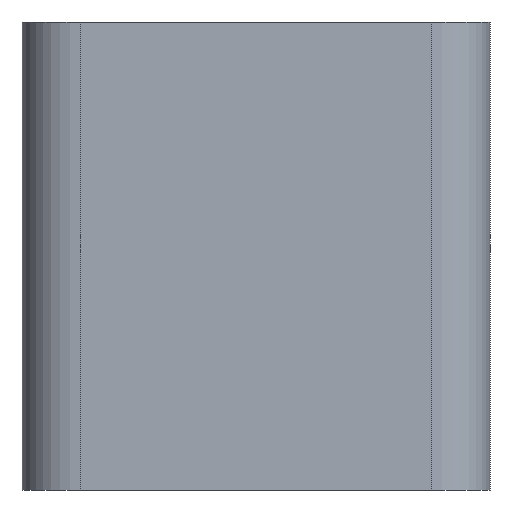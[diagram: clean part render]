
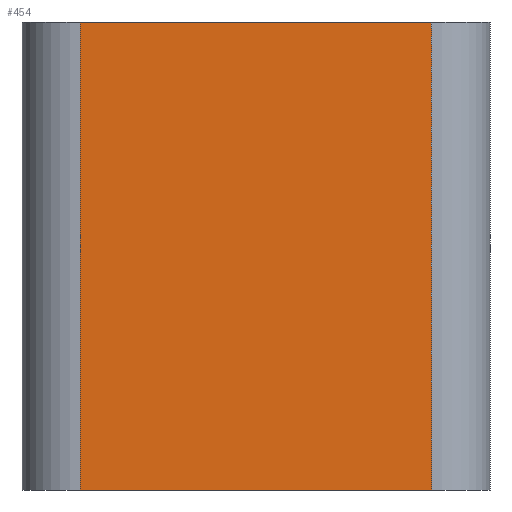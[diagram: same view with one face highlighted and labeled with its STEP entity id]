
A CAD part, front view. The second image highlights one B-rep face of the part: STEP entity #454.
In plain terms, the highlighted planar face has unit normal (0, -1, 0).
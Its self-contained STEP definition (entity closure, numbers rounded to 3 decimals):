
#2 = ORIENTED_EDGE ( 'NONE', *, *, #130, .T. ) ;
#28 = EDGE_CURVE ( 'NONE', #426, #146, #181, .T. ) ;
#29 = EDGE_CURVE ( 'NONE', #682, #426, #227, .T. ) ;
#33 = EDGE_CURVE ( 'NONE', #301, #146, #478, .T. ) ;
#52 = VECTOR ( 'NONE', #371, 1000. ) ;
#61 = LINE ( 'NONE', #373, #52 ) ;
#84 = VECTOR ( 'NONE', #547, 1000. ) ;
#130 = EDGE_CURVE ( 'NONE', #301, #682, #61, .T. ) ;
#146 = VERTEX_POINT ( 'NONE', #505 ) ;
#153 = CARTESIAN_POINT ( 'NONE',  ( -65.5, 59.912, 0. ) ) ;
#181 = LINE ( 'NONE', #611, #479 ) ;
#222 = ORIENTED_EDGE ( 'NONE', *, *, #29, .T. ) ;
#227 = LINE ( 'NONE', #588, #84 ) ;
#249 = DIRECTION ( 'NONE',  ( 0., 0., 1. ) ) ;
#250 = DIRECTION ( 'NONE',  ( 0., 1., 0. ) ) ;
#260 = PLANE ( 'NONE',  #548 ) ;
#264 = CARTESIAN_POINT ( 'NONE',  ( -66.5, 59.912, 8. ) ) ;
#301 = VERTEX_POINT ( 'NONE', #321 ) ;
#321 = CARTESIAN_POINT ( 'NONE',  ( -65.5, 59.912, 8. ) ) ;
#340 = CARTESIAN_POINT ( 'NONE',  ( -59.5, 59.912, 0. ) ) ;
#371 = DIRECTION ( 'NONE',  ( 0., 0., -1. ) ) ;
#373 = CARTESIAN_POINT ( 'NONE',  ( -65.5, 59.912, 8. ) ) ;
#419 = EDGE_LOOP ( 'NONE', ( #222, #580, #576, #2 ) ) ;
#426 = VERTEX_POINT ( 'NONE', #340 ) ;
#454 = ADVANCED_FACE ( 'NONE', ( #523 ), #260, .F. ) ;
#478 = LINE ( 'NONE', #619, #488 ) ;
#479 = VECTOR ( 'NONE', #561, 1000. ) ;
#488 = VECTOR ( 'NONE', #615, 1000. ) ;
#505 = CARTESIAN_POINT ( 'NONE',  ( -59.5, 59.912, 8. ) ) ;
#523 = FACE_OUTER_BOUND ( 'NONE', #419, .T. ) ;
#547 = DIRECTION ( 'NONE',  ( 1., 0., 0. ) ) ;
#548 = AXIS2_PLACEMENT_3D ( 'NONE', #264, #250, #249 ) ;
#561 = DIRECTION ( 'NONE',  ( 0., 0., 1. ) ) ;
#576 = ORIENTED_EDGE ( 'NONE', *, *, #33, .F. ) ;
#580 = ORIENTED_EDGE ( 'NONE', *, *, #28, .T. ) ;
#588 = CARTESIAN_POINT ( 'NONE',  ( -66.5, 59.912, 0. ) ) ;
#611 = CARTESIAN_POINT ( 'NONE',  ( -59.5, 59.912, 8. ) ) ;
#615 = DIRECTION ( 'NONE',  ( 1., 0., 0. ) ) ;
#619 = CARTESIAN_POINT ( 'NONE',  ( -66.5, 59.912, 8. ) ) ;
#682 = VERTEX_POINT ( 'NONE', #153 ) ;
